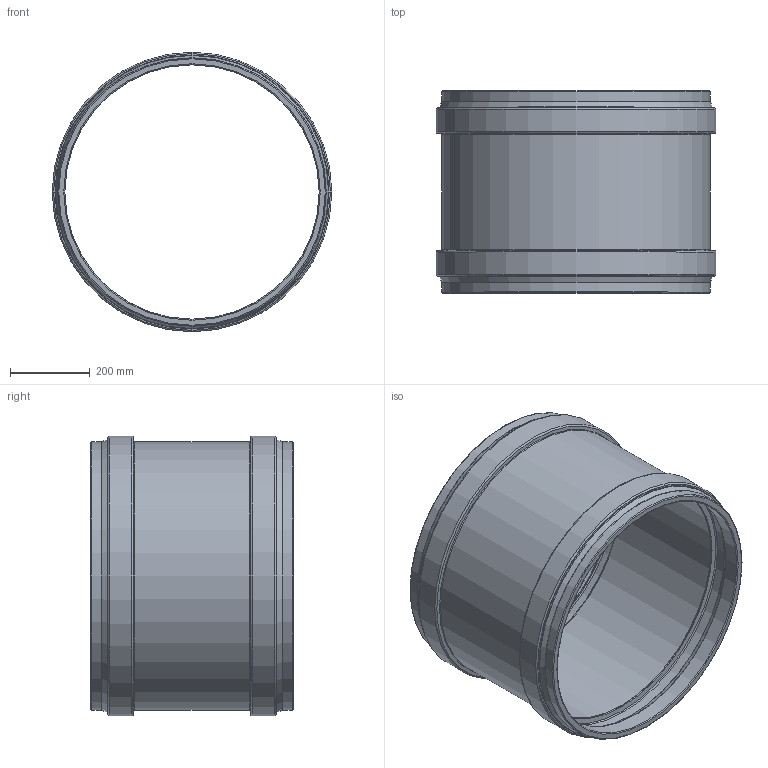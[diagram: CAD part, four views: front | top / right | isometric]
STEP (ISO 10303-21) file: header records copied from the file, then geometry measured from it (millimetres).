
FILE_DESCRIPTION(/* description */ (''),/* implementation_level */ '2;1');
FILE_NAME(/* name */ '771165z.stp',/* time_stamp */ '2026-02-13T10:04:58+01:00',/* author */ ('corinna'),/* organization */ (''),/* preprocessor_version */ 'ST-DEVELOPER v20',/* originating_system */ 'Autodesk Inventor 2024',/* authorisation */ '');
FILE_SCHEMA (('AUTOMOTIVE_DESIGN { 1 0 10303 214 3 1 1 }'));
Length unit declared in the file: millimetre
Products named in the file (1): 771165z
Bounding box: 699 x 506 x 699 mm (x, y, z)
Volume: 19384822 mm3; surface area: 2329749.4 mm2
Topology: 1 solids, 1 shells, 56 faces, 156 edges, 104 vertices
Faces by surface type: torus 26, cone 14, cylinder 12, plane 4
Full cylindrical faces by diameter (mm): 635.8 x1, 636.3 x4, 670 x2, 670.6 x1, 671.1 x2, 699 x2
Entity records: 1937 total; most frequent: DIRECTION 400, CARTESIAN_POINT 317, ORIENTED_EDGE 312, AXIS2_PLACEMENT_3D 187, EDGE_CURVE 156, CIRCLE 130, VERTEX_POINT 104, EDGE_LOOP 60
